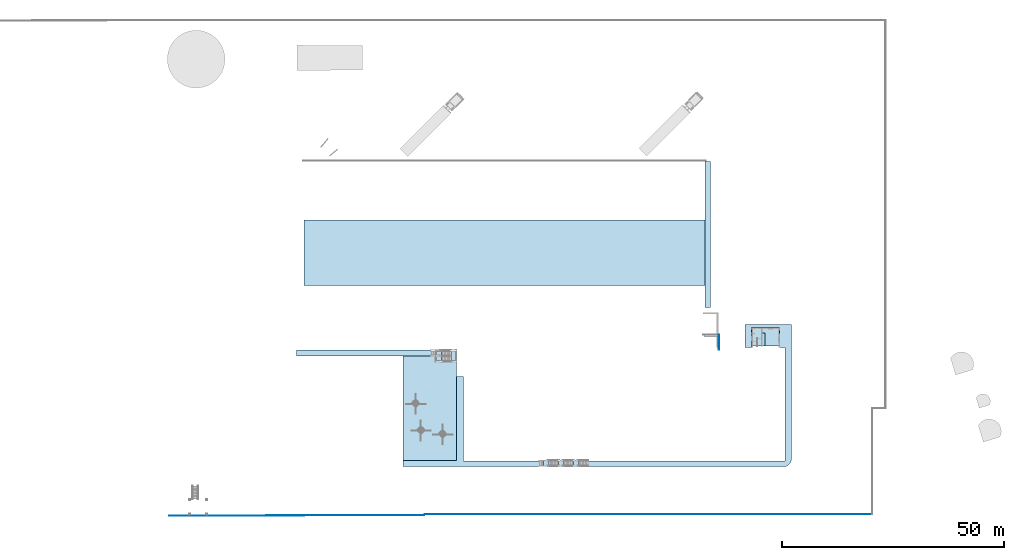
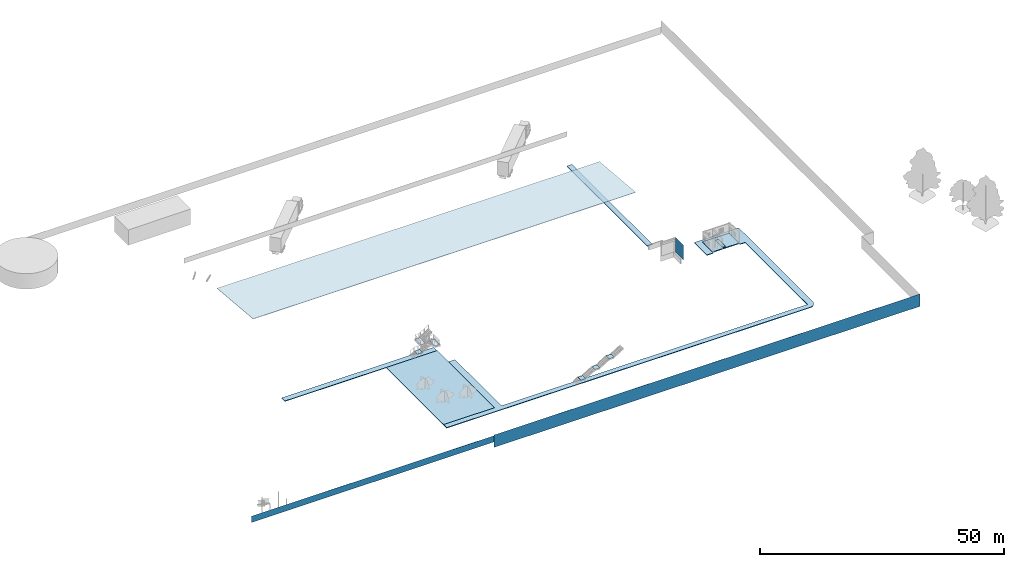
# One storey, part 3 of 16: 13 slabs, 3 walls, 1 opening, 3 elements without a shape of their own.
"""IFC2X3 building model written with IfcOpenShell, lengths in millimetres."""

from ifc_helpers import new_model, entity, si_unit, converted_unit, derived_unit, direction, frame, frame_2d, origin, origin_2d_with_axis, place, context, subcontext, project, spatial, polyline, circle_curve, parameter, trimmed, segment, composite_curve, rectangle, outline, extrude, material, layer, layer_set, layer_usage, type_object, element, aggregate, save


model = new_model("IFC2X3")

# Units and contexts
model_context = context("Model", 3, precision=0.01, world=origin(), true_north=direction((4.05803320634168e-15, -1.0)))
body_context = subcontext(model_context, "Body", "Model", "MODEL_VIEW")
ifc_project = project(units=[si_unit("LENGTHUNIT", "METRE", prefix="MILLI"), si_unit("AREAUNIT", "SQUARE_METRE"), si_unit("VOLUMEUNIT", "CUBIC_METRE"), converted_unit("PLANEANGLEUNIT", "DEGREE", entity("IfcRatioMeasure", 0.0174532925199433), si_unit("PLANEANGLEUNIT", "RADIAN"), dimensions=[0, 0, 0, 0, 0, 0, 0]), si_unit("MASSUNIT", "GRAM", prefix="KILO"), derived_unit("MASSDENSITYUNIT", [(si_unit("MASSUNIT", "GRAM", prefix="KILO"), 1), (si_unit("LENGTHUNIT", "METRE"), -3)]), si_unit("TIMEUNIT", "SECOND"), si_unit("FREQUENCYUNIT", "HERTZ"), si_unit("THERMODYNAMICTEMPERATUREUNIT", "DEGREE_CELSIUS"), derived_unit("THERMALTRANSMITTANCEUNIT", [(si_unit("MASSUNIT", "GRAM", prefix="KILO"), 1), (si_unit("THERMODYNAMICTEMPERATUREUNIT", "KELVIN"), -1), (si_unit("TIMEUNIT", "SECOND"), -3)]), derived_unit("VOLUMETRICFLOWRATEUNIT", [(si_unit("LENGTHUNIT", "METRE"), 3), (si_unit("TIMEUNIT", "SECOND"), -1)]), si_unit("ELECTRICCURRENTUNIT", "AMPERE"), si_unit("ELECTRICVOLTAGEUNIT", "VOLT"), si_unit("POWERUNIT", "WATT"), si_unit("FORCEUNIT", "NEWTON", prefix="KILO"), si_unit("ILLUMINANCEUNIT", "LUX"), si_unit("LUMINOUSFLUXUNIT", "LUMEN"), si_unit("LUMINOUSINTENSITYUNIT", "CANDELA"), derived_unit("USERDEFINED", [(si_unit("MASSUNIT", "GRAM", prefix="KILO"), -1), (si_unit("LENGTHUNIT", "METRE"), -2), (si_unit("TIMEUNIT", "SECOND"), 3), (si_unit("LUMINOUSFLUXUNIT", "LUMEN"), 1)]), derived_unit("LINEARVELOCITYUNIT", [(si_unit("LENGTHUNIT", "METRE"), 1), (si_unit("TIMEUNIT", "SECOND"), -1)]), si_unit("PRESSUREUNIT", "PASCAL"), derived_unit("USERDEFINED", [(si_unit("LENGTHUNIT", "METRE"), -2), (si_unit("MASSUNIT", "GRAM", prefix="KILO"), 1), (si_unit("TIMEUNIT", "SECOND"), -2)])], contexts=[model_context])

# Site, building, storey
site_placement = place(None, frame((927466.849349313, 583801.882853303, 0.0), z_axis=(0.0, 0.0, 1.0), x_axis=(-1.0, 0.0, 0.0)))
site = spatial("IfcSite", under=ifc_project, at=site_placement, Name="Surface", CompositionType="ELEMENT")
building_placement = place(site_placement, origin())
building = spatial("IfcBuilding", under=site, at=building_placement, CompositionType="ELEMENT")
storey_placement = place(building_placement, frame((0.0, 0.0, 42810.0)))
storey = spatial("IfcBuildingStorey", under=building, at=storey_placement, Name="Hardstand", CompositionType="ELEMENT", Elevation=42810.0)

# Slab
ifc_material_1 = material(Name="Grass")
ifc_layer_1 = layer(ifc_material_1, 150.0)
ifc_layer_set_1 = layer_set([ifc_layer_1], Name="Floor:grass")
ifc_layer_usage_1 = layer_usage(ifc_layer_set_1, "AXIS3", "POSITIVE", 0.0)
slab_1_placement = place(storey_placement, origin())
element("IfcSlab", 1, at=slab_1_placement, inside=storey, material=ifc_layer_usage_1, Name="Floor:grass", ObjectType="Floor:grass", PredefinedType="FLOOR", context=body_context, shape_type="SweptSolid", body=[
    extrude(rectangle(XDim=23587.1281005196, YDim=12087.3454969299, at=frame_2d((-1.36424205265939e-11, -2.59205990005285e-11), x_axis=(1.0, 0.0))), frame((-73144.2645283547, 25179.8418014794, 100.0), z_axis=(0.0, 0.0, -1.0), x_axis=(0.0, 1.0, 0.0)), (0.0, 0.0, 1.0), 150.000000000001),
])

# Roof, slab
roof_placement = place(storey_placement, frame((-135438.59177989, -17321.7403210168, 9064.87071655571)))
roof = element("IfcRoof", 2, at=roof_placement, inside=storey, Name="Basic Roof:Isopanel 100", ObjectType="Basic Roof:Isopanel 100", ShapeType="NOTDEFINED")
ifc_material_2 = material(Name="Isopenal")
ifc_layer_2 = layer(ifc_material_2, 100.0)
ifc_layer_set_2 = layer_set([ifc_layer_2], Name="Basic Roof:Isopanel 100")
slab_2_placement = place(roof_placement, origin())
slab_2 = element("IfcSlab", 3, at=slab_2_placement, material=ifc_layer_set_2, Name="Basic Roof:Isopanel 100", ObjectType="Basic Roof:Isopanel 100", PredefinedType="ROOF", context=body_context, shape_type="SweptSolid", body=[
    extrude(rectangle(XDim=14847.5173583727, YDim=90689.549450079, at=frame_2d((0.0, 1.36424205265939e-12), x_axis=(0.0, -1.0))), frame((45344.7747250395, 7395.50903611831, 647.023201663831), z_axis=(0.0, -0.0871557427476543, 0.996194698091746), x_axis=(1.0, 0.0, 0.0)), (0.0, 0.0871557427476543, 0.996194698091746), 100.381983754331),
])
aggregate(roof, [slab_2])

# Slabs
ifc_material_3 = material(Name="Wood - Stained")
ifc_layer_3 = layer(ifc_material_3, 50.0)
ifc_layer_set_3 = layer_set([ifc_layer_3], Name="Floor:Counter")
ifc_layer_usage_2 = layer_usage(ifc_layer_set_3, "AXIS3", "POSITIVE", 0.0)
slab_3_placement = place(storey_placement, origin())
element("IfcSlab", 4, at=slab_3_placement, inside=storey, material=ifc_layer_usage_2, Name="Floor:Counter", ObjectType="Floor:Counter", PredefinedType="FLOOR", context=body_context, shape_type="SweptSolid", body=[
    extrude(rectangle(XDim=2935.05521587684, YDim=660.255558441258, at=frame_2d((0.0, 8.64019966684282e-12), x_axis=(1.0, 0.0))), frame((-148510.673628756, 9691.4882191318, 500.0), z_axis=(0.0, 0.0, -1.0), x_axis=(0.0, 1.0, 0.0)), (0.0, 0.0, 1.0), 49.9999999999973),
])
ifc_material_4 = material(Name="cocn slab")
ifc_layer_4 = layer(ifc_material_4, 200.0)
ifc_layer_set_4 = layer_set([ifc_layer_4], Name="Floor:Generic 150mm")
ifc_layer_usage_3 = layer_usage(ifc_layer_set_4, "AXIS3", "POSITIVE", 0.0)
slab_4_placement = place(storey_placement, origin())
element("IfcSlab", 5, at=slab_4_placement, inside=storey, material=ifc_layer_usage_3, Name="Floor:Generic 150mm", ObjectType="Floor:Generic 150mm", PredefinedType="FLOOR", context=body_context, shape_type="SweptSolid", body=[
    extrude(rectangle(XDim=4169.99999999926, YDim=6370.25555844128, at=frame_2d((-4.54747350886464e-13, -8.64019966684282e-12), x_axis=(1.0, 0.0))), frame((-148965.673628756, 9074.01582707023, 170.0), z_axis=(0.0, 0.0, -1.0), x_axis=(0.0, 1.0, 0.0)), (0.0, 0.0, 1.0), 199.999999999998),
])

# Stair, slabs
stair_1_placement = place(storey_placement, origin())
stair_1 = element("IfcStair", 6, at=stair_1_placement, inside=storey, Name="Assembled Stair:Stair", ObjectType="Assembled Stair:170mm max riser 270mm going", ShapeType="NOTDEFINED")
slab_5_placement = place(stair_1_placement, origin())
slab_5 = element("IfcSlab", 7, at=slab_5_placement, Name="Assembled Stair:Stair:622611 Landing 1", ObjectType="Assembled Stair:170mm max riser 270mm going", PredefinedType="LANDING", context=body_context, shape_type="SweptSolid", body=[
    extrude(rectangle(XDim=1200.0, YDim=1200.0, at=origin_2d_with_axis()), frame((-106217.871944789, 37578.2777512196, 3802.5), z_axis=(0.0, 0.0, 1.0), x_axis=(0.0, 1.0, 0.0)), (0.0, 0.0, 1.0), 49.9999999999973),
])
slab_6_placement = place(stair_1_placement, origin())
slab_6 = element("IfcSlab", 8, at=slab_6_placement, Name="Assembled Stair:Stair:622611 Landing 2", ObjectType="Assembled Stair:170mm max riser 270mm going", PredefinedType="LANDING", context=body_context, shape_type="SweptSolid", body=[
    extrude(rectangle(XDim=1200.0, YDim=1200.0, at=origin_2d_with_axis()), frame((-102857.871944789, 37578.2777512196, 2295.0), z_axis=(0.0, 0.0, 1.0), x_axis=(0.0, 1.0, 0.0)), (0.0, 0.0, 1.0), 49.9999999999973),
])
slab_7_placement = place(stair_1_placement, origin())
slab_7 = element("IfcSlab", 9, at=slab_7_placement, Name="Assembled Stair:Stair:622611 Landing 3", ObjectType="Assembled Stair:170mm max riser 270mm going", PredefinedType="LANDING", context=body_context, shape_type="SweptSolid", body=[
    extrude(rectangle(XDim=1200.0, YDim=1200.0, at=origin_2d_with_axis()), frame((-99497.8719447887, 37578.2777512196, 787.500000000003), z_axis=(0.0, 0.0, 1.0), x_axis=(0.0, 1.0, 0.0)), (0.0, 0.0, 1.0), 49.9999999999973),
])
aggregate(stair_1, [slab_5, slab_6, slab_7])

# Slabs
ifc_material_5 = material(Name="paving")
ifc_layer_5 = layer(ifc_material_5, 150.0)
ifc_layer_set_5 = layer_set([ifc_layer_5], Name="Floor:paving")
ifc_layer_usage_4 = layer_usage(ifc_layer_set_5, "AXIS3", "POSITIVE", 0.0)
slab_8_placement = place(storey_placement, frame((-154800.59177989, -30551.7403210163, -50.0)))
element("IfcSlab", 10, at=slab_8_placement, inside=storey, material=ifc_layer_usage_4, Name="Floor:paving", ObjectType="Floor:paving", PredefinedType="FLOOR", context=body_context, shape_type="SweptSolid", body=[
    extrude(outline(composite_curve([segment(polyline([(-31849.4252749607, 34409.0090361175), (-31849.4252749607, 33116.137136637)]), True, "CONTINUOUS"), segment(polyline([(-31849.4252749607, 33116.137136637), (-19762.0797780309, 33116.1371366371)]), True, "CONTINUOUS"), segment(polyline([(-19762.0797780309, 33116.1371366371), (-19762.0797780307, 14160.2016115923)]), True, "CONTINUOUS"), segment(polyline([(-19762.0797780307, 14160.2016115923), (-18187.4252749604, 14160.2016115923)]), True, "CONTINUOUS"), segment(polyline([(-18187.4252749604, 14160.2016115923), (-18187.4252749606, 33209.0090361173)]), True, "CONTINUOUS"), segment(polyline([(-18187.4252749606, 33209.0090361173), (54350.5747250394, 33209.0090361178)]), True, "CONTINUOUS"), segment(polyline([(54350.5747250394, 33209.0090361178), (54350.5747250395, 7591.00903611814)]), True, "CONTINUOUS"), segment(polyline([(54350.5747250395, 7591.00903611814), (53200.7843531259, 7591.00903611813)]), True, "CONTINUOUS"), segment(polyline([(53200.7843531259, 7591.00903611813), (53200.7843531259, 3091.00903611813)]), True, "CONTINUOUS"), segment(polyline([(53200.7843531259, 3091.00903611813), (46800.7843531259, 3091.00903611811)]), True, "CONTINUOUS"), segment(polyline([(46800.7843531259, 3091.00903611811), (46800.7843531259, 7591.00903611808)]), True, "CONTINUOUS"), segment(polyline([(46800.7843531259, 7591.00903611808), (45308.4427101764, 7591.00903611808)]), True, "CONTINUOUS"), segment(polyline([(45308.4427101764, 7591.00903611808), (45308.4427101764, 2391.00903611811)]), True, "CONTINUOUS"), segment(polyline([(45308.4427101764, 2391.00903611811), (55850.5747250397, 2391.00903611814)]), True, "CONTINUOUS"), segment(polyline([(55850.5747250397, 2391.00903611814), (55850.5747250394, 32716.1371366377)]), True, "CONTINUOUS"), segment(trimmed(circle_curve(frame_2d((54004.5639446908, 32663.7404650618), x_axis=(-1.0, 0.0)), 1846.75423712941), [parameter(181.625831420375)], [parameter(250.917089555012)], True, "PARAMETER"), True, "CONTINUOUS"), segment(polyline([(54608.3344534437, 34409.0090361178), (-31849.4252749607, 34409.0090361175)]), True, "CONTINUOUS")], self_intersect=False)), frame((55850.5747250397, 34409.0090361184, 150.0), z_axis=(0.0, 0.0, -1.0), x_axis=(-1.0, 0.0, 0.0)), (0.0, 0.0, 1.0), 150.000000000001),
])
slab_9_placement = place(storey_placement, frame((-154800.59177989, -30551.7403210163, -50.0)))
element("IfcSlab", 11, at=slab_9_placement, inside=storey, material=ifc_layer_usage_4, Name="Floor:paving:2", ObjectType="Floor:paving", PredefinedType="FLOOR", context=body_context, shape_type="SweptSolid", body=[
    extrude(rectangle(XDim=36033.1494500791, YDim=1337.99999999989, at=frame_2d((-37834.0, 8860.00903611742), x_axis=(-1.0, 0.0))), frame((55850.5747250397, 34409.0090361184, 150.0), z_axis=(0.0, 0.0, -1.0), x_axis=(-1.0, 0.0, 0.0)), (0.0, 0.0, 1.0), 150.000000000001),
])
slab_10_placement = place(storey_placement, frame((-154800.59177989, -30551.7403210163, -50.0)))
element("IfcSlab", 12, at=slab_10_placement, inside=storey, material=ifc_layer_usage_4, Name="Floor:paving:3", ObjectType="Floor:paving", PredefinedType="FLOOR", context=body_context, shape_type="SweptSolid", body=[
    extrude(rectangle(XDim=33026.9628563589, YDim=1200.00000000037, at=frame_2d((36950.5747250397, -17895.5276079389), x_axis=(0.0, -1.0))), frame((55850.5747250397, 34409.0090361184, 150.0), z_axis=(0.0, 0.0, -1.0), x_axis=(-1.0, 0.0, 0.0)), (0.0, 0.0, 1.0), 150.000000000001),
])

# Stair, slabs
stair_2_placement = place(storey_placement, origin())
stair_2 = element("IfcStair", 13, at=stair_2_placement, inside=storey, Name="Assembled Stair:Stair", ObjectType="Assembled Stair:170mm max riser 270mm going", ShapeType="NOTDEFINED")
slab_11_placement = place(stair_2_placement, origin())
slab_11 = element("IfcSlab", 14, at=slab_11_placement, Name="Assembled Stair:Stair:767068 Landing 1", ObjectType="Assembled Stair:170mm max riser 270mm going", PredefinedType="LANDING", context=body_context, shape_type="SweptSolid", body=[
    extrude(rectangle(XDim=2400.0, YDim=1200.00000000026, at=frame_2d((2.89901436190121e-11, 119.999999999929), x_axis=(1.0, 0.0))), frame((-75318.5913038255, 13392.1710387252, 3802.50000000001), z_axis=(0.0, 0.0, 1.0), x_axis=(0.0, -1.0, 0.0)), (0.0, 0.0, 1.0), 49.9999999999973),
])
slab_12_placement = place(stair_2_placement, origin())
slab_12 = element("IfcSlab", 15, at=slab_12_placement, Name="Assembled Stair:Stair:767068 Landing 2", ObjectType="Assembled Stair:170mm max riser 270mm going", PredefinedType="LANDING", context=body_context, shape_type="SweptSolid", body=[
    extrude(rectangle(XDim=2450.0, YDim=1200.00000000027, at=frame_2d((-1.13686837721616e-12, 199.999999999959), x_axis=(1.0, 0.0))), frame((-78358.5913038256, 13367.1710387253, 2295.0), z_axis=(0.0, 0.0, 1.0), x_axis=(0.0, 1.0, 0.0)), (0.0, 0.0, 1.0), 49.9999999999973),
])
slab_13_placement = place(stair_2_placement, origin())
slab_13 = element("IfcSlab", 16, at=slab_13_placement, Name="Assembled Stair:Stair:767068 Landing 3", ObjectType="Assembled Stair:170mm max riser 270mm going", PredefinedType="LANDING", context=body_context, shape_type="SweptSolid", body=[
    extrude(rectangle(XDim=1200.0, YDim=1249.99999999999, at=origin_2d_with_axis()), frame((-75173.5913038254, 12742.1710387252, 787.500000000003), z_axis=(0.0, 0.0, 1.0), x_axis=(0.0, 1.0, 0.0)), (0.0, 0.0, 1.0), 49.9999999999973),
])
aggregate(stair_2, [slab_11, slab_12, slab_13])

# Wall, opening
ifc_material_6 = material(Name="Cladding(2)")
ifc_layer_6 = layer(ifc_material_6, 38.0)
ifc_layer_set_6 = layer_set([ifc_layer_6], Name="Basic Wall:Cladding 3")
ifc_layer_usage_5 = layer_usage(ifc_layer_set_6, "AXIS2", "POSITIVE", -19.0)
wall_type_1 = type_object("IfcWallType", Name="Basic Wall:Cladding 3", PredefinedType="NOTDEFINED")
wall_1_placement = place(storey_placement, frame((-138426.77985842, 8613.22253534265, 1166.46823143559), z_axis=(0.0, 0.0, 1.0), x_axis=(0.0, 1.0, 0.0)))
wall_1 = element("IfcWallStandardCase", 17, at=wall_1_placement, inside=storey, type_object=wall_type_1, material=ifc_layer_usage_5, Name="Basic Wall:Cladding 3", ObjectType="Basic Wall:Cladding 3", context=body_context, shape_type="SweptSolid", body=[
    extrude(rectangle(XDim=3295.05521587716, YDim=37.9999999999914, at=frame_2d((1647.52760793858, 0.0), x_axis=(-1.0, 0.0))), origin(), (0.0, 0.0, 1.0), 3743.53176856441),
])
opening_placement = place(wall_1_placement, origin())
element("IfcOpeningElement", 18, at=opening_placement, cuts=wall_1, Name="Basic Wall:Cladding 3", ObjectType="Opening", context=body_context, shape_type="SweptSolid", body=[
    extrude(rectangle(XDim=3000.0, YDim=38.0, at=frame_2d((0.0, 4.32009983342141e-12), x_axis=(0.0, 1.0))), frame((-19.0, -3303.84258160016, 1693.53176856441), z_axis=(0.0, 1.0, 0.0), x_axis=(-1.0, 0.0, 0.0)), (0.0, 0.0, 1.0), 2999.99999999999),
])

# Walls
ifc_material_7 = material(Name="fence")
ifc_layer_7 = layer(ifc_material_7, 10.0)
ifc_layer_set_7 = layer_set([ifc_layer_7], Name="Basic Wall:fence")
ifc_layer_usage_6 = layer_usage(ifc_layer_set_7, "AXIS2", "NEGATIVE", 5.0)
wall_type_2 = type_object("IfcWallType", Name="Basic Wall:fence", PredefinedType="STANDARD", material=ifc_layer_set_7)
wall_2_placement = place(storey_placement, frame((-173016.725842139, 49105.8491220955, 0.0)))
element("IfcWallStandardCase", 19, at=wall_2_placement, inside=storey, type_object=wall_type_2, material=ifc_layer_usage_6, Name="Basic Wall:fence", ObjectType="Basic Wall:fence", context=body_context, shape_type="SweptSolid", body=[
    extrude(rectangle(XDim=100952.683512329, YDim=9.99999999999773, at=frame_2d((50476.3417561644, -4.65849581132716e-13), x_axis=(-1.0, 0.0))), origin(), (0.0, 0.0, 1.0), 3107.37056858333),
])
ifc_layer_usage_7 = layer_usage(ifc_layer_set_7, "AXIS2", "NEGATIVE", 5.0)
wall_3_placement = place(storey_placement, frame((-71965.7317783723, 49320.6538253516, 1535.48817792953), z_axis=(0.0, 0.0, 1.0), x_axis=(0.999999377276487, 0.00111599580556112, 0.0)))
element("IfcWallStandardCase", 20, at=wall_3_placement, inside=storey, type_object=wall_type_2, material=ifc_layer_usage_7, Name="Basic Wall:fence", ObjectType="Basic Wall:fence", context=body_context, shape_type="SweptSolid", body=[
    extrude(rectangle(XDim=57540.4748482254, YDim=10.0000000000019, at=frame_2d((28770.2374241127, -1.06581410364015e-14), x_axis=(-1.0, 0.0))), origin(), (0.0, 0.0, 1.0), 1571.8823906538),
])

save(model, "model.ifc")
